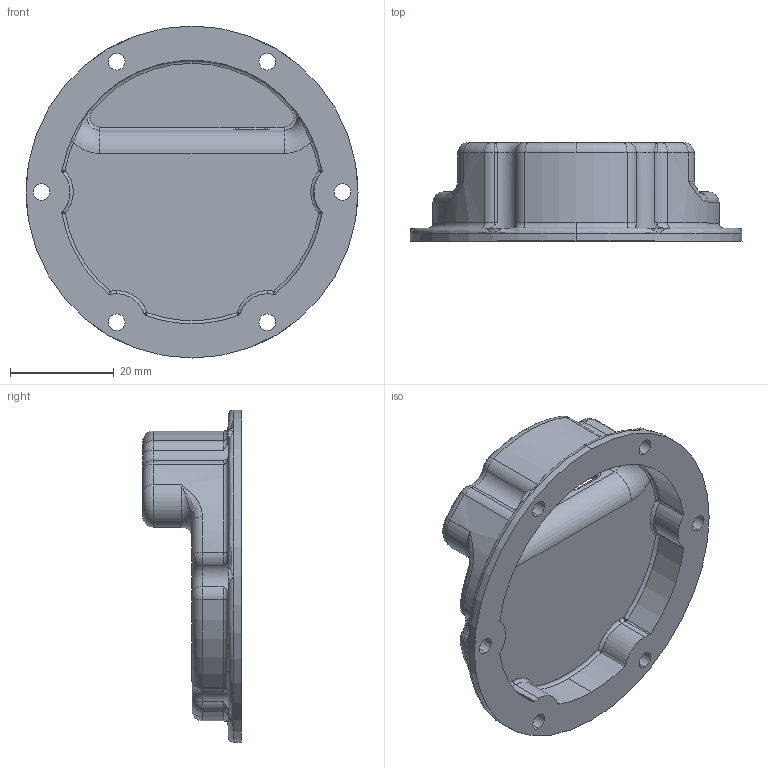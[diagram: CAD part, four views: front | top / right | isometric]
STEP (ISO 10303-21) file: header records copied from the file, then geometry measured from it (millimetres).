
FILE_DESCRIPTION (( 'STEP AP214' ), '1' );
FILE_NAME ('New Turbine 1 Case Cap.STEP', '2021-11-11T22:22:10', ( 'Valera' ), ( '' ), 'SwSTEP 2.0', 'SolidWorks 2020', '' );
FILE_SCHEMA (( 'AUTOMOTIVE_DESIGN' ));
Length unit declared in the file: millimetre
Products named in the file (1): New Turbine 1 Case Cap
Bounding box: 64 x 19 x 64 mm (x, y, z)
Volume: 12609.9 mm3; surface area: 10788.3 mm2
Topology: 1 solids, 1 shells, 204 faces, 507 edges, 294 vertices
Faces by surface type: cylinder 88, torus 88, bspline 18, plane 10
Entity records: 6841 total; most frequent: CARTESIAN_POINT 1938, DIRECTION 1143, ORIENTED_EDGE 990, AXIS2_PLACEMENT_3D 523, EDGE_CURVE 495, CIRCLE 336, VERTEX_POINT 294, EDGE_LOOP 219
